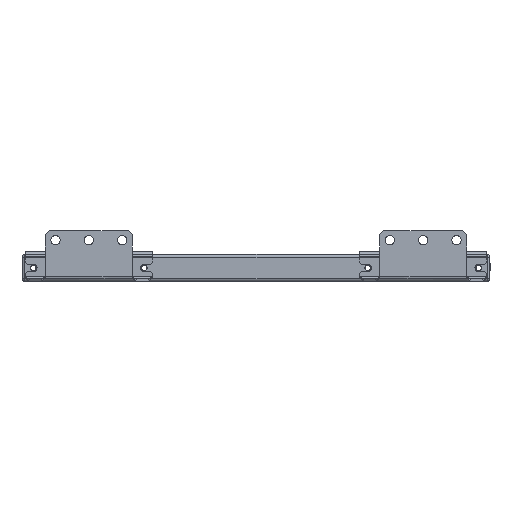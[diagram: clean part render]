
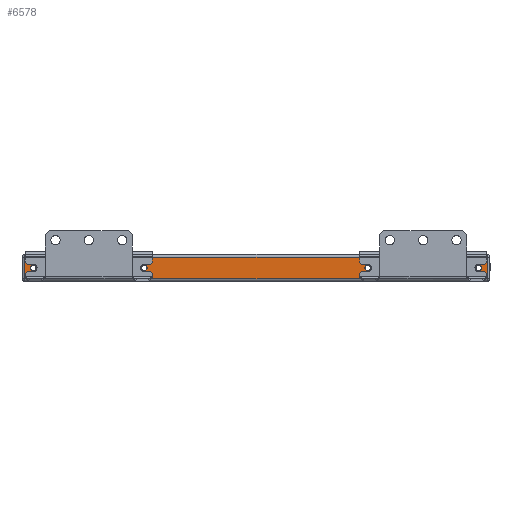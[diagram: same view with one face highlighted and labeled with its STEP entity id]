
A CAD part, left-side view. The second image highlights one B-rep face of the part: STEP entity #6578.
In plain terms, the highlighted planar face has unit normal (-1, 0, 0).
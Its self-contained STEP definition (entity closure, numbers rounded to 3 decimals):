
#428 = CARTESIAN_POINT ( 'NONE',  ( -425., -83.5, 10. ) ) ;
#429 = DIRECTION ( 'NONE',  ( 1., 0., 0. ) ) ;
#430 = DIRECTION ( 'NONE',  ( 0., 0., 1. ) ) ;
#454 = CARTESIAN_POINT ( 'NONE',  ( -425., -166.5, 10. ) ) ;
#455 = DIRECTION ( 'NONE',  ( 1., 0., 0. ) ) ;
#456 = DIRECTION ( 'NONE',  ( 0., 0., 1. ) ) ;
#479 = CARTESIAN_POINT ( 'NONE',  ( -425., 83.5, 10. ) ) ;
#480 = DIRECTION ( 'NONE',  ( -1., 0., 0. ) ) ;
#481 = DIRECTION ( 'NONE',  ( 0., 0., 1. ) ) ;
#503 = CARTESIAN_POINT ( 'NONE',  ( -425., 166.5, 10. ) ) ;
#504 = DIRECTION ( 'NONE',  ( -1., 0., 0. ) ) ;
#505 = DIRECTION ( 'NONE',  ( 0., 0., 1. ) ) ;
#1046 = CARTESIAN_POINT ( 'NONE',  ( -425., -166.5, 10. ) ) ;
#1050 = DIRECTION ( 'NONE',  ( 1., 0., 0. ) ) ;
#1051 = DIRECTION ( 'NONE',  ( 0., 0., 1. ) ) ;
#1052 = CARTESIAN_POINT ( 'NONE',  ( -425., 83.5, 10. ) ) ;
#1053 = DIRECTION ( 'NONE',  ( -1., 0., 0. ) ) ;
#1054 = DIRECTION ( 'NONE',  ( 0., 0., 1. ) ) ;
#1055 = CARTESIAN_POINT ( 'NONE',  ( -425., 166.5, 10. ) ) ;
#1056 = DIRECTION ( 'NONE',  ( -1., 0., 0. ) ) ;
#1057 = DIRECTION ( 'NONE',  ( 0., 0., 1. ) ) ;
#1058 = CARTESIAN_POINT ( 'NONE',  ( -425., -83.5, 10. ) ) ;
#1059 = LINE ( 'NONE', #1060, #12104 ) ;
#1060 = CARTESIAN_POINT ( 'NONE',  ( -425., 175., 18. ) ) ;
#1061 = DIRECTION ( 'NONE',  ( 0., 1., 0. ) ) ;
#1062 = LINE ( 'NONE', #1063, #12092 ) ;
#1063 = CARTESIAN_POINT ( 'NONE',  ( -425., -173., 20. ) ) ;
#1064 = DIRECTION ( 'NONE',  ( 0., 0., 1. ) ) ;
#1065 = LINE ( 'NONE', #1066, #12094 ) ;
#1066 = CARTESIAN_POINT ( 'NONE',  ( -425., 173., 20. ) ) ;
#1067 = DIRECTION ( 'NONE',  ( 0., 0., -1. ) ) ;
#1068 = LINE ( 'NONE', #1069, #12098 ) ;
#1069 = CARTESIAN_POINT ( 'NONE',  ( -425., -175., 2. ) ) ;
#1070 = DIRECTION ( 'NONE',  ( 0., -1., 0. ) ) ;
#1071 = DIRECTION ( 'NONE',  ( 1., 0., 0. ) ) ;
#1072 = DIRECTION ( 'NONE',  ( 0., 0., 1. ) ) ;
#2138 = AXIS2_PLACEMENT_3D ( 'NONE', #1055, #1056, #1057 ) ;
#2172 = AXIS2_PLACEMENT_3D ( 'NONE', #1046, #1050, #1051 ) ;
#2176 = AXIS2_PLACEMENT_3D ( 'NONE', #1052, #1053, #1054 ) ;
#2511 = AXIS2_PLACEMENT_3D ( 'NONE', #503, #504, #505 ) ;
#2515 = AXIS2_PLACEMENT_3D ( 'NONE', #479, #480, #481 ) ;
#2519 = AXIS2_PLACEMENT_3D ( 'NONE', #454, #455, #456 ) ;
#2527 = AXIS2_PLACEMENT_3D ( 'NONE', #428, #429, #430 ) ;
#2926 = CARTESIAN_POINT ( 'NONE',  ( -425., -173., 2. ) ) ;
#2927 = CARTESIAN_POINT ( 'NONE',  ( -425., -173., 18. ) ) ;
#2928 = CARTESIAN_POINT ( 'NONE',  ( -425., 173., 18. ) ) ;
#2929 = CARTESIAN_POINT ( 'NONE',  ( -425., 173., 2. ) ) ;
#4557 = CARTESIAN_POINT ( 'NONE',  ( -425., -83.5, 12. ) ) ;
#4560 = CARTESIAN_POINT ( 'NONE',  ( -425., -83.5, 8. ) ) ;
#4747 = CARTESIAN_POINT ( 'NONE',  ( -425., -166.5, 12. ) ) ;
#4748 = CARTESIAN_POINT ( 'NONE',  ( -425., -166.5, 8. ) ) ;
#5252 = VERTEX_POINT ( 'NONE', #4557 ) ;
#5255 = VERTEX_POINT ( 'NONE', #4560 ) ;
#5703 = VERTEX_POINT ( 'NONE', #4747 ) ;
#5704 = VERTEX_POINT ( 'NONE', #4748 ) ;
#5738 = EDGE_LOOP ( 'NONE', ( #8482, #8474 ) ) ;
#5743 = EDGE_LOOP ( 'NONE', ( #8477, #8472, #8473, #8471 ) ) ;
#5767 = EDGE_LOOP ( 'NONE', ( #8468, #8469 ) ) ;
#5783 = EDGE_LOOP ( 'NONE', ( #8478, #8476 ) ) ;
#5814 = EDGE_LOOP ( 'NONE', ( #8483, #8480 ) ) ;
#6229 = EDGE_CURVE ( 'NONE', #5252, #5255, #11251, .T. ) ;
#6237 = EDGE_CURVE ( 'NONE', #5703, #5704, #11232, .T. ) ;
#6245 = EDGE_CURVE ( 'NONE', #9878, #9879, #11237, .T. ) ;
#6253 = EDGE_CURVE ( 'NONE', #9886, #9887, #11239, .T. ) ;
#6435 = EDGE_CURVE ( 'NONE', #5704, #5703, #11160, .T. ) ;
#6436 = EDGE_CURVE ( 'NONE', #9879, #9878, #11027, .T. ) ;
#6437 = EDGE_CURVE ( 'NONE', #9887, #9886, #11062, .T. ) ;
#6438 = EDGE_CURVE ( 'NONE', #10069, #10070, #1059, .T. ) ;
#6439 = EDGE_CURVE ( 'NONE', #10068, #10069, #1062, .T. ) ;
#6440 = EDGE_CURVE ( 'NONE', #10070, #10071, #1065, .T. ) ;
#6441 = EDGE_CURVE ( 'NONE', #10071, #10068, #1068, .T. ) ;
#6442 = EDGE_CURVE ( 'NONE', #5255, #5252, #11031, .T. ) ;
#6578 = ADVANCED_FACE ( 'NONE', ( #12448, #12450, #12445, #12442, #12438 ), #7060, .F. ) ;
#7060 = PLANE ( 'NONE',  #12452 ) ;
#7061 = CARTESIAN_POINT ( 'NONE',  ( -425., -175., 20. ) ) ;
#7062 = DIRECTION ( 'NONE',  ( 1., 0., 0. ) ) ;
#7063 = DIRECTION ( 'NONE',  ( 0., 0., -1. ) ) ;
#7830 = CARTESIAN_POINT ( 'NONE',  ( -425., 83.5, 8. ) ) ;
#7831 = CARTESIAN_POINT ( 'NONE',  ( -425., 83.5, 12. ) ) ;
#7838 = CARTESIAN_POINT ( 'NONE',  ( -425., 166.5, 8. ) ) ;
#7839 = CARTESIAN_POINT ( 'NONE',  ( -425., 166.5, 12. ) ) ;
#8468 = ORIENTED_EDGE ( 'NONE', *, *, #6229, .T. ) ;
#8469 = ORIENTED_EDGE ( 'NONE', *, *, #6442, .T. ) ;
#8471 = ORIENTED_EDGE ( 'NONE', *, *, #6441, .T. ) ;
#8472 = ORIENTED_EDGE ( 'NONE', *, *, #6438, .T. ) ;
#8473 = ORIENTED_EDGE ( 'NONE', *, *, #6440, .T. ) ;
#8474 = ORIENTED_EDGE ( 'NONE', *, *, #6253, .F. ) ;
#8476 = ORIENTED_EDGE ( 'NONE', *, *, #6245, .F. ) ;
#8477 = ORIENTED_EDGE ( 'NONE', *, *, #6439, .T. ) ;
#8478 = ORIENTED_EDGE ( 'NONE', *, *, #6436, .F. ) ;
#8480 = ORIENTED_EDGE ( 'NONE', *, *, #6435, .T. ) ;
#8482 = ORIENTED_EDGE ( 'NONE', *, *, #6437, .F. ) ;
#8483 = ORIENTED_EDGE ( 'NONE', *, *, #6237, .T. ) ;
#9878 = VERTEX_POINT ( 'NONE', #7830 ) ;
#9879 = VERTEX_POINT ( 'NONE', #7831 ) ;
#9886 = VERTEX_POINT ( 'NONE', #7838 ) ;
#9887 = VERTEX_POINT ( 'NONE', #7839 ) ;
#10068 = VERTEX_POINT ( 'NONE', #2926 ) ;
#10069 = VERTEX_POINT ( 'NONE', #2927 ) ;
#10070 = VERTEX_POINT ( 'NONE', #2928 ) ;
#10071 = VERTEX_POINT ( 'NONE', #2929 ) ;
#11027 = CIRCLE ( 'NONE', #2176, 2. ) ;
#11031 = CIRCLE ( 'NONE', #12090, 2. ) ;
#11062 = CIRCLE ( 'NONE', #2138, 2. ) ;
#11160 = CIRCLE ( 'NONE', #2172, 2. ) ;
#11232 = CIRCLE ( 'NONE', #2519, 2. ) ;
#11237 = CIRCLE ( 'NONE', #2515, 2. ) ;
#11239 = CIRCLE ( 'NONE', #2511, 2. ) ;
#11251 = CIRCLE ( 'NONE', #2527, 2. ) ;
#12090 = AXIS2_PLACEMENT_3D ( 'NONE', #1058, #1071, #1072 ) ;
#12092 = VECTOR ( 'NONE', #1064, 1000. ) ;
#12094 = VECTOR ( 'NONE', #1067, 1000. ) ;
#12098 = VECTOR ( 'NONE', #1070, 1000. ) ;
#12104 = VECTOR ( 'NONE', #1061, 1000. ) ;
#12438 = FACE_BOUND ( 'NONE', #5767, .T. ) ;
#12442 = FACE_OUTER_BOUND ( 'NONE', #5743, .T. ) ;
#12445 = FACE_BOUND ( 'NONE', #5738, .T. ) ;
#12448 = FACE_BOUND ( 'NONE', #5814, .T. ) ;
#12450 = FACE_BOUND ( 'NONE', #5783, .T. ) ;
#12452 = AXIS2_PLACEMENT_3D ( 'NONE', #7061, #7062, #7063 ) ;
